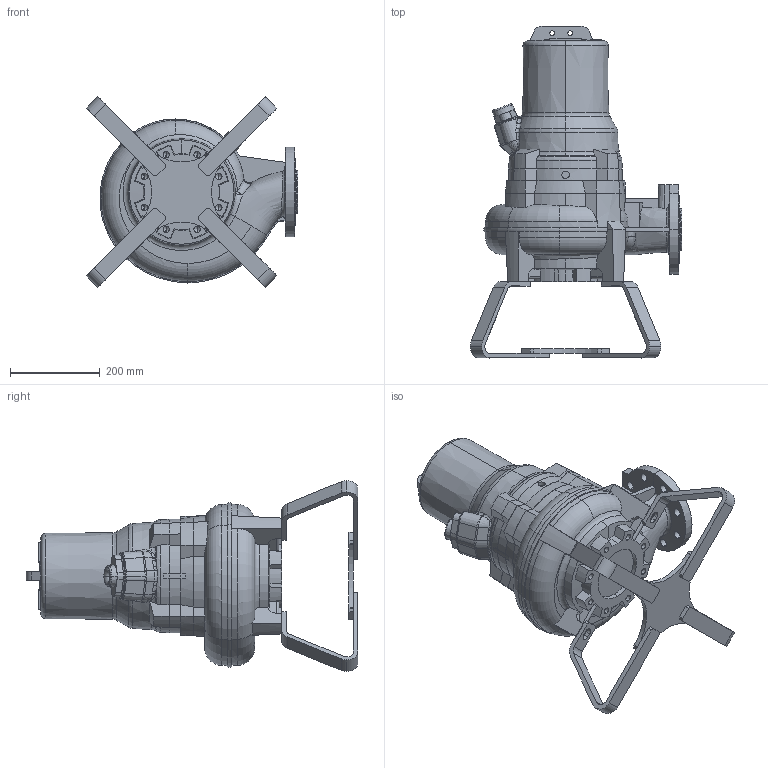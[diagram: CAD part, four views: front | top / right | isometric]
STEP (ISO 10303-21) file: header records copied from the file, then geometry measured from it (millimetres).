
FILE_DESCRIPTION (( 'STEP AP203' ), '1' );
FILE_NAME ('80FWC-M_5,5kW BASE FRAME.STEP', '2025-03-21T10:18:32', ( '' ), ( '' ), 'SwSTEP 2.0', 'SolidWorks 2023', '' );
FILE_SCHEMA (( 'CONFIG_CONTROL_DESIGN' ));
Length unit declared in the file: millimetre
Products named in the file (1): 80FWC-M_5,5kW BASE FRAME
Bounding box: 471.65 x 740 x 425.3 mm (x, y, z)
Volume: 30414686.5 mm3; surface area: 990250.5 mm2
Topology: 1 solids, 1 shells, 777 faces, 2084 edges, 1320 vertices
Faces by surface type: plane 327, cone 149, cylinder 139, bspline 88, torus 67, sphere 7
Entity records: 32437 total; most frequent: CARTESIAN_POINT 13827, ORIENTED_EDGE 4112, DIRECTION 3600, EDGE_CURVE 2056, AXIS2_PLACEMENT_3D 1377, VERTEX_POINT 1320, LINE 846, VECTOR 846
